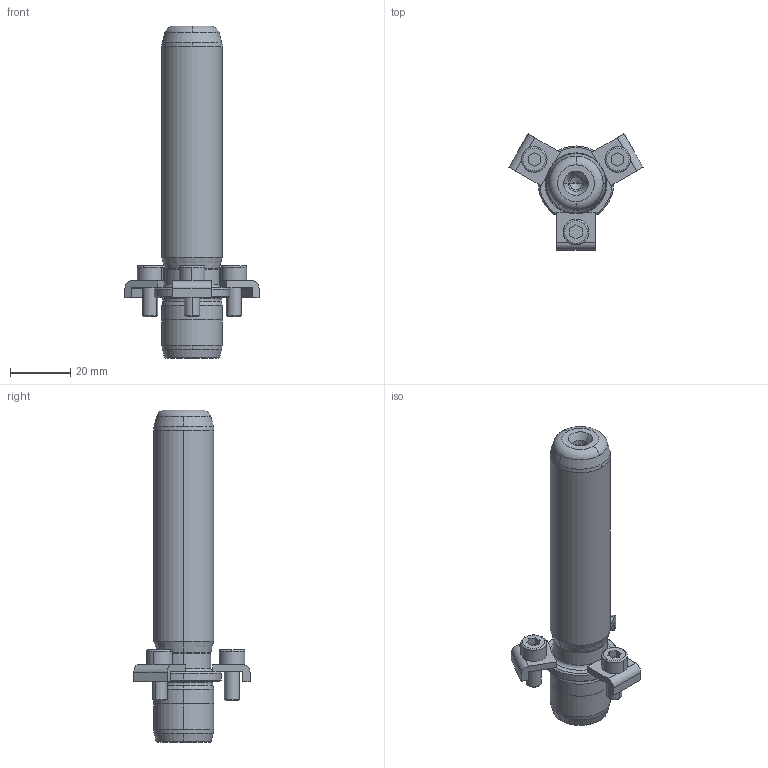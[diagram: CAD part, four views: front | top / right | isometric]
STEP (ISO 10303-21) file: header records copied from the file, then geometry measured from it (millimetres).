
FILE_DESCRIPTION((''),'2;1');
FILE_NAME('P21_020_090.stp','2008-12-18T10:55:09',(''),(''),'Mechanical Desktop 2009','Mechanical Desktop 2009',', , ');
FILE_SCHEMA(('CONFIG_CONTROL_DESIGN'));
Length unit declared in the file: millimetre
Products named in the file (2): Product; blmdl1
Assembly tree (1 placements, depth 2):
  Product
    blmdl1
Bounding box: 44.46 x 38.5 x 110 mm (x, y, z)
Volume: 36116.1 mm3; surface area: 11014.5 mm2
Topology: 7 solids, 7 shells, 169 faces, 417 edges, 269 vertices
Faces by surface type: plane 62, cylinder 47, cone 32, bspline 18, torus 10
Entity records: 5881 total; most frequent: CARTESIAN_POINT 1645, DIRECTION 936, ORIENTED_EDGE 826, EDGE_CURVE 413, AXIS2_PLACEMENT_3D 370, VERTEX_POINT 269, CIRCLE 217, VECTOR 196
